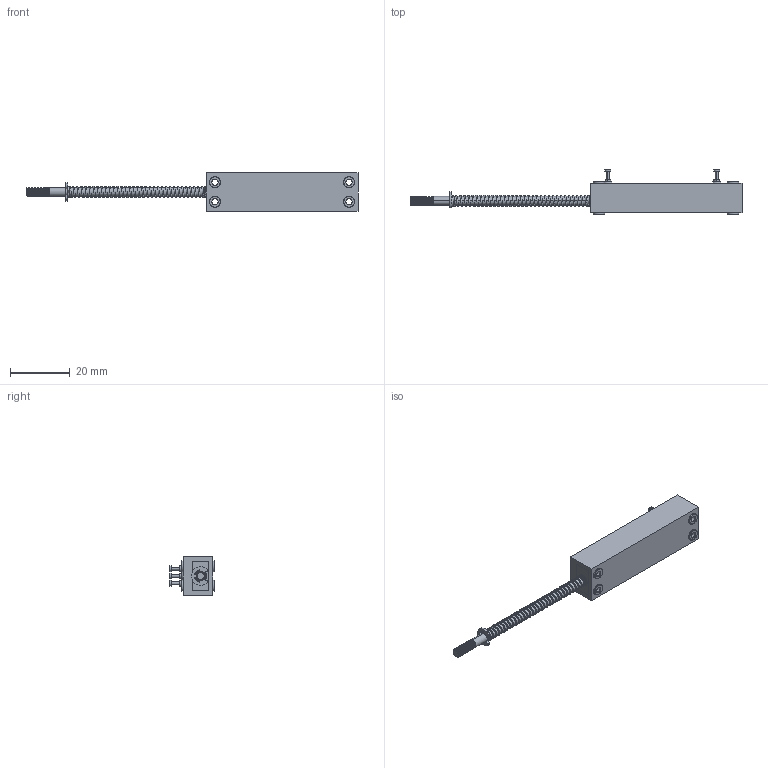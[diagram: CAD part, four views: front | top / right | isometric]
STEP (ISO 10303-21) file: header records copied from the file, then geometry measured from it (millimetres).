
FILE_DESCRIPTION (( 'STEP AP214' ), '1' );
FILE_NAME ('CLPR13_25.STEP', '2016-11-28T10:58:24', ( '' ), ( '' ), 'SwSTEP 2.0', 'SolidWorks 2016', '' );
FILE_SCHEMA (( 'AUTOMOTIVE_DESIGN' ));
Length unit declared in the file: millimetre
Products named in the file (8): lock washer for shafts_din_Lock washer DIN 6799 - 2.3; Feder_CLPR13-25; Taster_CLPR13-25_M2; Lager_CLP13; Lötstifte_hoch_CLP13; Hohlniet_CLP13; GeheuseCLPR13-25; CLPR13_25
Assembly tree (12 placements, depth 2):
  CLPR13_25
    GeheuseCLPR13-25
    Hohlniet_CLP13  x4
    Lötstifte_hoch_CLP13  x3
    Lager_CLP13
    Taster_CLPR13-25_M2
    Feder_CLPR13-25
    lock washer for shafts_din_Lock washer DIN 6799 - 2.3
Bounding box: 111.4 x 15 x 13 mm (x, y, z)
Volume: 6463.3 mm3; surface area: 5684.8 mm2
Topology: 12 solids, 12 shells, 489 faces, 1219 edges, 803 vertices
Faces by surface type: plane 229, cylinder 114, bspline 103, cone 43
Entity records: 35815 total; most frequent: CARTESIAN_POINT 23034, ORIENTED_EDGE 2158, DIRECTION 1597, EDGE_CURVE 1079, VERTEX_POINT 715, LINE 665, VECTOR 665, EDGE_LOOP 468
